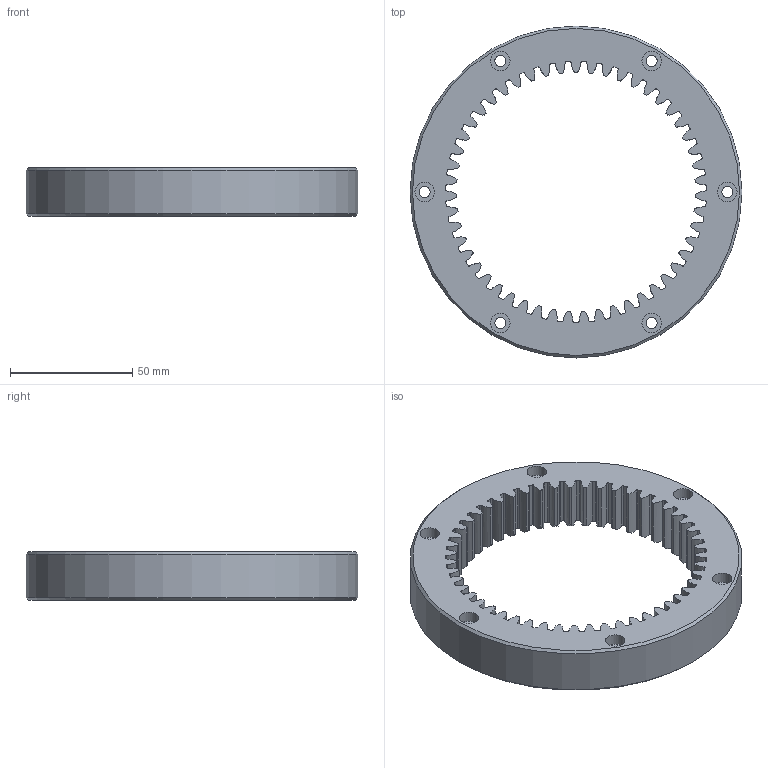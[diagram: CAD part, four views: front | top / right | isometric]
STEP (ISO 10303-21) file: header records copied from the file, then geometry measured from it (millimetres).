
FILE_DESCRIPTION(/* description */ (''),/* implementation_level */ '2;1');
FILE_NAME(/* name */ '',/* time_stamp */ '2026-04-27T11:30:51+09:00',/* author */ ('jhkim'),/* organization */ (''),/* preprocessor_version */ 'ST-DEVELOPER v20.1',/* originating_system */ 'Autodesk Inventor 2027',/* authorisation */ '');
FILE_SCHEMA (('AUTOMOTIVE_DESIGN { 1 0 10303 214 3 1 1 }'));
Length unit declared in the file: millimetre
Products named in the file (1): 링 기어
Bounding box: 136 x 136 x 20 mm (x, y, z)
Volume: 121649.8 mm3; surface area: 35253.4 mm2
Topology: 1 solids, 1 shells, 380 faces, 1116 edges, 744 vertices
Faces by surface type: cylinder 319, cone 53, plane 8
Full cylindrical faces by diameter (mm): 4.5 x6, 8 x6, 136 x1
Entity records: 13226 total; most frequent: CARTESIAN_POINT 2547, DIRECTION 2469, ORIENTED_EDGE 2232, EDGE_CURVE 1116, AXIS2_PLACEMENT_3D 1074, VERTEX_POINT 744, CIRCLE 693, EDGE_LOOP 400
